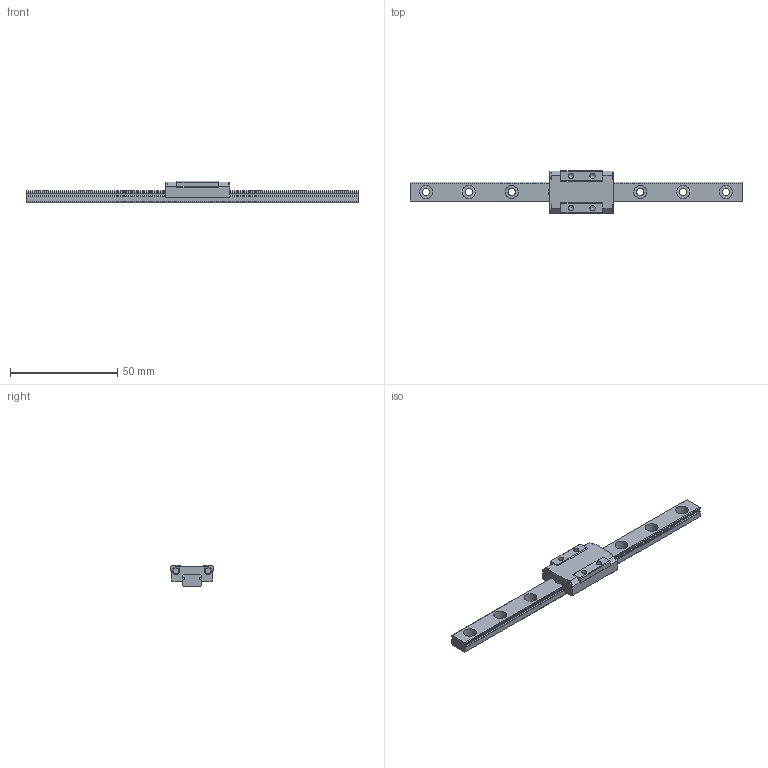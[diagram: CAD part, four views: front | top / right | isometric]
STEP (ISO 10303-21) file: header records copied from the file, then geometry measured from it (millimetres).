
FILE_DESCRIPTION((''),'2;1');
FILE_NAME('D:\製品 (図面)\カタログ用3D\リニアガイド関連\STEP形式\LGM\LGM9.stp','2010-06-02T15:55:05',('Tsuchiya'),(''),'Autodesk Inventor 10','Autodesk Inventor 10','');
FILE_SCHEMA(('AUTOMOTIVE_DESIGN { 1 0 10303 214 1 1 1 1 }'));
Length unit declared in the file: millimetre
Products named in the file (3): LGM9; LGM91; LGM92
Assembly tree (2 placements, depth 2):
  LGM9
    LGM91
    LGM92
Bounding box: 155 x 20 x 10 mm (x, y, z)
Volume: 9709.1 mm3; surface area: 7709.4 mm2
Topology: 2 solids, 2 shells, 130 faces, 342 edges, 228 vertices
Faces by surface type: plane 64, bspline 42, cylinder 24
Full cylindrical faces by diameter (mm): 2.8 x2
Entity records: 4282 total; most frequent: CARTESIAN_POINT 1179, ORIENTED_EDGE 612, DIRECTION 588, EDGE_CURVE 306, VERTEX_POINT 220, VECTOR 210, LINE 210, AXIS2_PLACEMENT_3D 189
